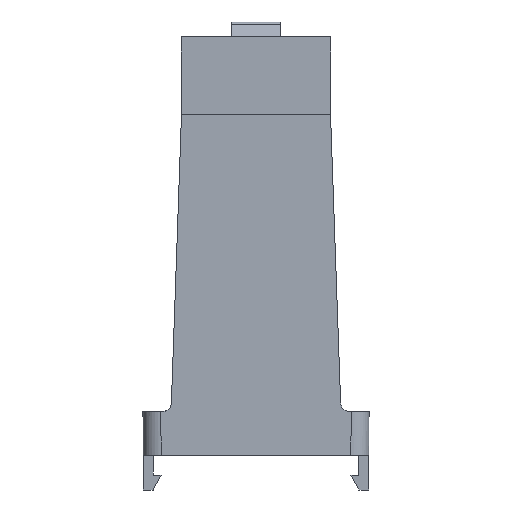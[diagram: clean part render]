
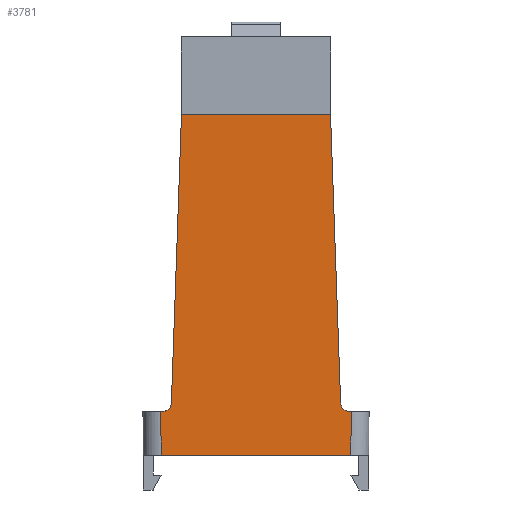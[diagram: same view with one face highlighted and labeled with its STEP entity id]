
A CAD part, front view. The second image highlights one B-rep face of the part: STEP entity #3781.
In plain terms, the highlighted planar face has unit normal (0, -1, -0.006).
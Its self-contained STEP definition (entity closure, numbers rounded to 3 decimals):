
#42=ELLIPSE('',#4019,0.9,0.9);
#43=ELLIPSE('',#4021,0.9,0.9);
#578=ORIENTED_EDGE('',*,*,#1545,.T.);
#579=ORIENTED_EDGE('',*,*,#1559,.T.);
#580=ORIENTED_EDGE('',*,*,#1585,.T.);
#581=ORIENTED_EDGE('',*,*,#1583,.T.);
#582=ORIENTED_EDGE('',*,*,#1586,.T.);
#583=ORIENTED_EDGE('',*,*,#1329,.T.);
#584=ORIENTED_EDGE('',*,*,#1587,.T.);
#585=ORIENTED_EDGE('',*,*,#1588,.F.);
#586=ORIENTED_EDGE('',*,*,#1589,.F.);
#587=ORIENTED_EDGE('',*,*,#1539,.F.);
#1329=EDGE_CURVE('',#1875,#1877,#2253,.T.);
#1539=EDGE_CURVE('',#2039,#2040,#2441,.F.);
#1545=EDGE_CURVE('',#2039,#2044,#2445,.T.);
#1559=EDGE_CURVE('',#2044,#2053,#2456,.F.);
#1583=EDGE_CURVE('',#2070,#2069,#42,.F.);
#1585=EDGE_CURVE('',#2053,#2070,#2471,.T.);
#1586=EDGE_CURVE('',#2069,#1875,#2472,.T.);
#1587=EDGE_CURVE('',#1877,#2071,#2473,.T.);
#1588=EDGE_CURVE('',#2072,#2071,#43,.T.);
#1589=EDGE_CURVE('',#2040,#2072,#2474,.F.);
#1875=VERTEX_POINT('',#5355);
#1877=VERTEX_POINT('',#5359);
#2039=VERTEX_POINT('',#5808);
#2040=VERTEX_POINT('',#5810);
#2044=VERTEX_POINT('',#5820);
#2053=VERTEX_POINT('',#5845);
#2069=VERTEX_POINT('',#5893);
#2070=VERTEX_POINT('',#5895);
#2071=VERTEX_POINT('',#5901);
#2072=VERTEX_POINT('',#5903);
#2253=LINE('',#5360,#2762);
#2441=LINE('',#5809,#2950);
#2445=LINE('',#5821,#2954);
#2456=LINE('',#5846,#2965);
#2471=LINE('',#5898,#2980);
#2472=LINE('',#5899,#2981);
#2473=LINE('',#5900,#2982);
#2474=LINE('',#5904,#2983);
#2762=VECTOR('',#4299,1000.);
#2950=VECTOR('',#4611,1000.);
#2954=VECTOR('',#4621,1000.);
#2965=VECTOR('',#4642,1000.);
#2980=VECTOR('',#4697,1000.);
#2981=VECTOR('',#4698,1000.);
#2982=VECTOR('',#4699,1000.);
#2983=VECTOR('',#4702,1000.);
#3236=EDGE_LOOP('',(#578,#579,#580,#581,#582,#583,#584,#585,#586,#587));
#3429=FACE_BOUND('',#3236,.T.);
#3602=PLANE('',#4020);
#3781=ADVANCED_FACE('',(#3429),#3602,.T.);
#4019=AXIS2_PLACEMENT_3D('',#5894,#4692,#4693);
#4020=AXIS2_PLACEMENT_3D('',#5897,#4695,#4696);
#4021=AXIS2_PLACEMENT_3D('',#5902,#4700,#4701);
#4299=DIRECTION('',(-1.,0.,0.));
#4611=DIRECTION('',(0.006,0.006,-1.));
#4621=DIRECTION('',(1.,0.,0.));
#4642=DIRECTION('',(-0.006,0.006,-1.));
#4692=DIRECTION('',(0.,-1.,-0.006));
#4693=DIRECTION('',(0.,-0.006,1.));
#4695=DIRECTION('',(0.,-1.,-0.006));
#4696=DIRECTION('',(0.,0.006,-1.));
#4697=DIRECTION('',(-1.,0.,0.));
#4698=DIRECTION('',(-0.035,-0.006,0.999));
#4699=DIRECTION('',(-0.035,0.006,-0.999));
#4700=DIRECTION('',(0.,-1.,-0.006));
#4701=DIRECTION('',(0.,0.006,-1.));
#4702=DIRECTION('',(-1.,0.,0.));
#5355=CARTESIAN_POINT('',(7.5,-15.05,34.3));
#5359=CARTESIAN_POINT('',(-7.5,-15.05,34.3));
#5360=CARTESIAN_POINT('',(-11.35,-15.05,34.3));
#5808=CARTESIAN_POINT('',(-9.55,-14.85,0.));
#5809=CARTESIAN_POINT('',(-9.55,-14.85,-0.01));
#5810=CARTESIAN_POINT('',(-9.576,-14.876,4.4));
#5820=CARTESIAN_POINT('',(9.55,-14.85,0.));
#5821=CARTESIAN_POINT('',(-9.55,-14.85,0.));
#5845=CARTESIAN_POINT('',(9.576,-14.876,4.4));
#5846=CARTESIAN_POINT('',(9.755,-15.055,35.299));
#5893=CARTESIAN_POINT('',(8.514,-14.881,5.269));
#5894=CARTESIAN_POINT('',(9.413,-14.881,5.3));
#5895=CARTESIAN_POINT('',(9.413,-14.876,4.4));
#5897=CARTESIAN_POINT('',(-11.35,-15.055,35.299));
#5898=CARTESIAN_POINT('',(36.68,-14.876,4.4));
#5899=CARTESIAN_POINT('',(8.544,-14.876,4.417));
#5900=CARTESIAN_POINT('',(-7.47,-15.055,35.164));
#5901=CARTESIAN_POINT('',(-8.514,-14.881,5.269));
#5902=CARTESIAN_POINT('',(-9.413,-14.881,5.3));
#5903=CARTESIAN_POINT('',(-9.413,-14.876,4.4));
#5904=CARTESIAN_POINT('',(36.68,-14.876,4.4));
